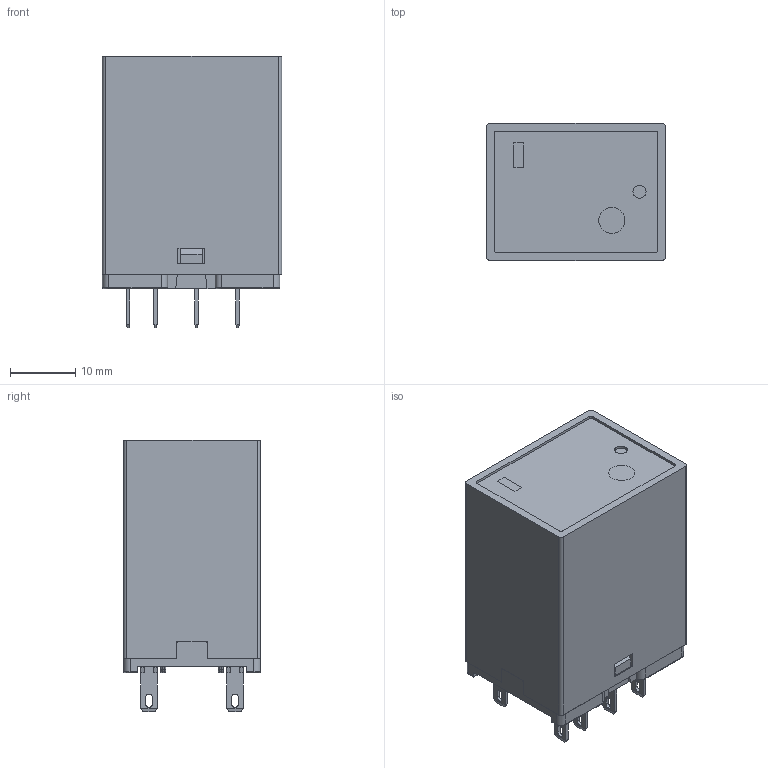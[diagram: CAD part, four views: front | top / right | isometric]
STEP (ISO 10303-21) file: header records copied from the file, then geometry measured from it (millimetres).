
FILE_DESCRIPTION(/* description */ (''),/* implementation_level */ '2;1');
FILE_NAME(/* name */ '18FF-2Z1.stp',/* time_stamp */ '2018-12-27T14:47:40+08:00',/* author */ (''),/* organization */ (''),/* preprocessor_version */ 'ST-DEVELOPER v15',/* originating_system */ 'SIEMENS PLM Software NX 8.5',/* authorisation */ '');
FILE_SCHEMA (('CONFIG_CONTROL_DESIGN'));
Length unit declared in the file: millimetre
Products named in the file (13): 77190533900_a; 66210828900_a; 77500391900_a; 80710158000_d; 89140050020_a; 66640327000_a; 86340694000_b; 66210877000_a; 66201145900_a; 61210583000_b; 56701789000_a; 56701791000_a; 45201649000_a
Assembly tree (18 placements, depth 6):
  45201649000_a
    56701791000_a
      56701789000_a
        61210583000_b
          80710158000_d
          77500391900_a  x4
          66201145900_a  x4
            77190533900_a
        89140050020_a
        66210877000_a
          66210828900_a
      66640327000_a
    86340694000_b
Bounding box: 27.5 x 21 x 41.7 mm (x, y, z)
Volume: 6677 mm3; surface area: 11099 mm2
Topology: 23 solids, 23 shells, 1404 faces, 3622 edges, 2296 vertices
Faces by surface type: plane 900, cylinder 385, torus 32, extrusion 32, sphere 30, bspline 19, cone 6
Full cylindrical faces by diameter (mm): 2 x1, 2.05 x4, 2.6 x1, 4 x1, 4.5 x1, 6 x1, 6.5 x1
Entity records: 37303 total; most frequent: CARTESIAN_POINT 11801, ORIENTED_EDGE 5050, DIRECTION 4793, EDGE_CURVE 2525, VECTOR 1773, LINE 1741, VERTEX_POINT 1598, AXIS2_PLACEMENT_3D 1510
